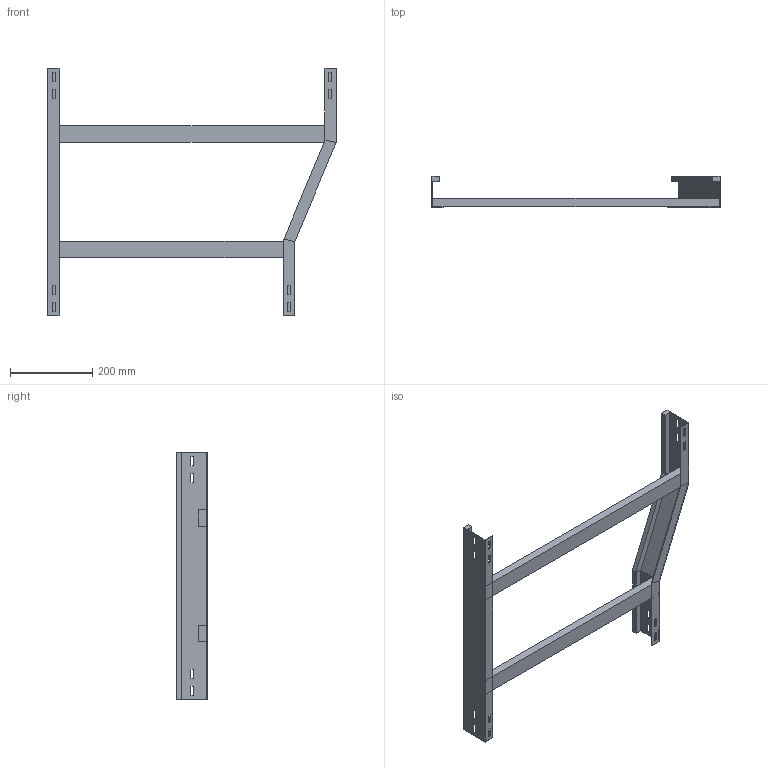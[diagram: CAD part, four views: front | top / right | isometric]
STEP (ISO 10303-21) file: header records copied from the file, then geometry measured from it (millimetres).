
FILE_DESCRIPTION (( 'STEP AP214' ), '1' );
FILE_NAME ('B2X22B6C700XX.step', '2025-09-02T17:19:46', ( '' ), ( '' ), 'SwSTEP 2.0', 'SolidWorks 2023', '' );
FILE_SCHEMA (( 'AUTOMOTIVE_DESIGN' ));
Length unit declared in the file: millimetre
Products named in the file (5): B2X22B6C700XX; TRAVERSINO_700; SPONDA DRITTA_H75; SPONDA RID. SX 700-600_H75; TRAVERSINO_600
Assembly tree (4 placements, depth 2):
  B2X22B6C700XX
    SPONDA DRITTA_H75
    TRAVERSINO_600
    TRAVERSINO_700
    SPONDA RID. SX 700-600_H75
Bounding box: 700 x 75 x 600 mm (x, y, z)
Volume: 1519832 mm3; surface area: 445988 mm2
Topology: 4 solids, 4 shells, 112 faces, 296 edges, 192 vertices
Faces by surface type: plane 112
Entity records: 3590 total; most frequent: CARTESIAN_POINT 607, ORIENTED_EDGE 592, DIRECTION 534, LINE 296, EDGE_CURVE 296, VECTOR 296, VERTEX_POINT 192, EDGE_LOOP 144
